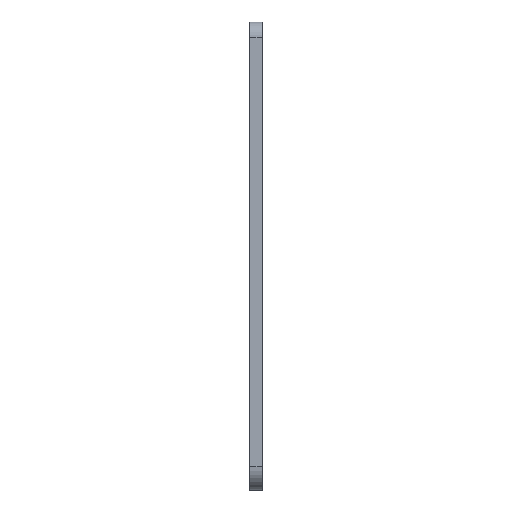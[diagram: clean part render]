
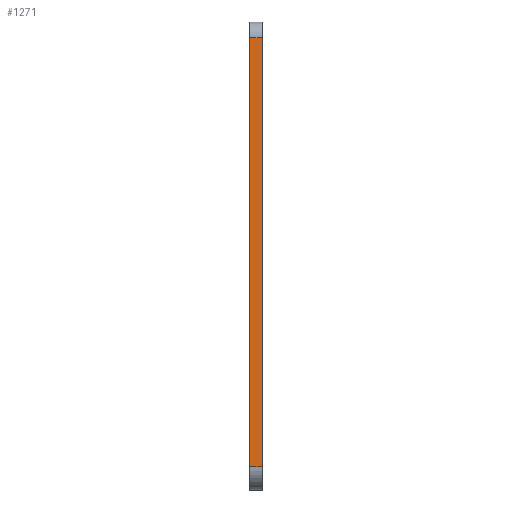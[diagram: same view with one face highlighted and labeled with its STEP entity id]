
A CAD part, left-side view. The second image highlights one B-rep face of the part: STEP entity #1271.
In plain terms, the highlighted planar face has unit normal (-1, 0, 0).
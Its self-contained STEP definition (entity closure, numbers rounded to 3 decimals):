
#17 = CARTESIAN_POINT ( 'NONE',  ( -71.371, 0., 124.246 ) ) ;
#86 = VECTOR ( 'NONE', #768, 1000. ) ;
#148 = CARTESIAN_POINT ( 'NONE',  ( -71.371, 2., 124.246 ) ) ;
#154 = EDGE_CURVE ( 'NONE', #1190, #509, #885, .T. ) ;
#166 = FACE_OUTER_BOUND ( 'NONE', #218, .T. ) ;
#205 = ORIENTED_EDGE ( 'NONE', *, *, #868, .T. ) ;
#218 = EDGE_LOOP ( 'NONE', ( #1255, #1272, #617, #205 ) ) ;
#265 = DIRECTION ( 'NONE',  ( 0., -1., 0. ) ) ;
#286 = DIRECTION ( 'NONE',  ( 0., 0., -1. ) ) ;
#294 = CARTESIAN_POINT ( 'NONE',  ( -71.371, 0., 194.835 ) ) ;
#334 = CARTESIAN_POINT ( 'NONE',  ( -71.371, 0., 143.035 ) ) ;
#405 = LINE ( 'NONE', #1354, #680 ) ;
#421 = VECTOR ( 'NONE', #672, 1000. ) ;
#446 = EDGE_CURVE ( 'NONE', #755, #1190, #405, .T. ) ;
#509 = VERTEX_POINT ( 'NONE', #294 ) ;
#515 = DIRECTION ( 'NONE',  ( 0., 0., 1. ) ) ;
#617 = ORIENTED_EDGE ( 'NONE', *, *, #446, .F. ) ;
#644 = LINE ( 'NONE', #148, #1361 ) ;
#672 = DIRECTION ( 'NONE',  ( 0., -1., 0. ) ) ;
#680 = VECTOR ( 'NONE', #515, 1000. ) ;
#709 = EDGE_CURVE ( 'NONE', #1107, #509, #918, .T. ) ;
#755 = VERTEX_POINT ( 'NONE', #1191 ) ;
#768 = DIRECTION ( 'NONE',  ( 0., 0., 1. ) ) ;
#774 = CARTESIAN_POINT ( 'NONE',  ( -71.371, 2., 194.835 ) ) ;
#799 = CARTESIAN_POINT ( 'NONE',  ( -71.371, 2., 194.835 ) ) ;
#868 = EDGE_CURVE ( 'NONE', #755, #1107, #644, .T. ) ;
#885 = LINE ( 'NONE', #774, #421 ) ;
#918 = LINE ( 'NONE', #334, #86 ) ;
#1034 = CARTESIAN_POINT ( 'NONE',  ( -71.371, 2., 143.035 ) ) ;
#1107 = VERTEX_POINT ( 'NONE', #17 ) ;
#1126 = AXIS2_PLACEMENT_3D ( 'NONE', #1034, #1269, #286 ) ;
#1190 = VERTEX_POINT ( 'NONE', #799 ) ;
#1191 = CARTESIAN_POINT ( 'NONE',  ( -71.371, 2., 124.246 ) ) ;
#1255 = ORIENTED_EDGE ( 'NONE', *, *, #709, .T. ) ;
#1269 = DIRECTION ( 'NONE',  ( 1., 0., 0. ) ) ;
#1271 = ADVANCED_FACE ( 'NONE', ( #166 ), #1372, .F. ) ;
#1272 = ORIENTED_EDGE ( 'NONE', *, *, #154, .F. ) ;
#1354 = CARTESIAN_POINT ( 'NONE',  ( -71.371, 2., 143.035 ) ) ;
#1361 = VECTOR ( 'NONE', #265, 1000. ) ;
#1372 = PLANE ( 'NONE',  #1126 ) ;
